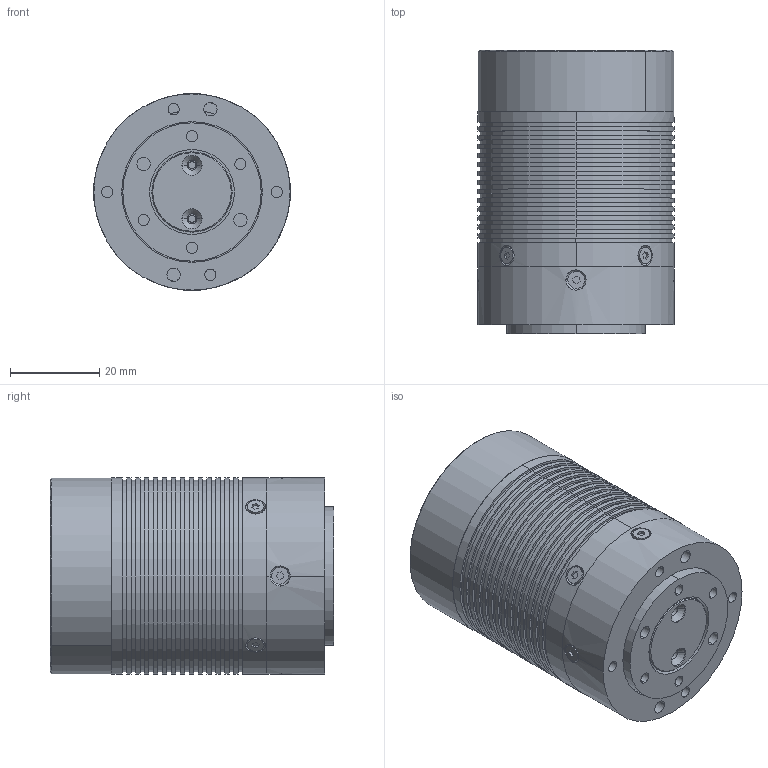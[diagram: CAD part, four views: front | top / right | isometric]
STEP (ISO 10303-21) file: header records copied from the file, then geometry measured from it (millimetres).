
FILE_DESCRIPTION (( 'STEP AP203' ), '1' );
FILE_NAME ('X2-P28-7.STEP', '2025-09-13T06:48:11', ( '微软用户' ), ( '微软中国' ), 'SwSTEP 2.0', 'SolidWorks 2020', '' );
FILE_SCHEMA (( 'CONFIG_CONTROL_DESIGN' ));
Length unit declared in the file: millimetre
Products named in the file (1): X2-P28-7
Bounding box: 44.01 x 63.5 x 44.01 mm (x, y, z)
Surface area: 23709.7 mm2 (no closed solid volume)
Topology: 0 solids, 42 shells, 380 faces, 1217 edges, 899 vertices
Faces by surface type: plane 177, cylinder 161, cone 42
Entity records: 14141 total; most frequent: CARTESIAN_POINT 3113, DIRECTION 2415, ORIENTED_EDGE 1892, EDGE_CURVE 1213, VERTEX_POINT 899, AXIS2_PLACEMENT_3D 873, VECTOR 669, LINE 669
